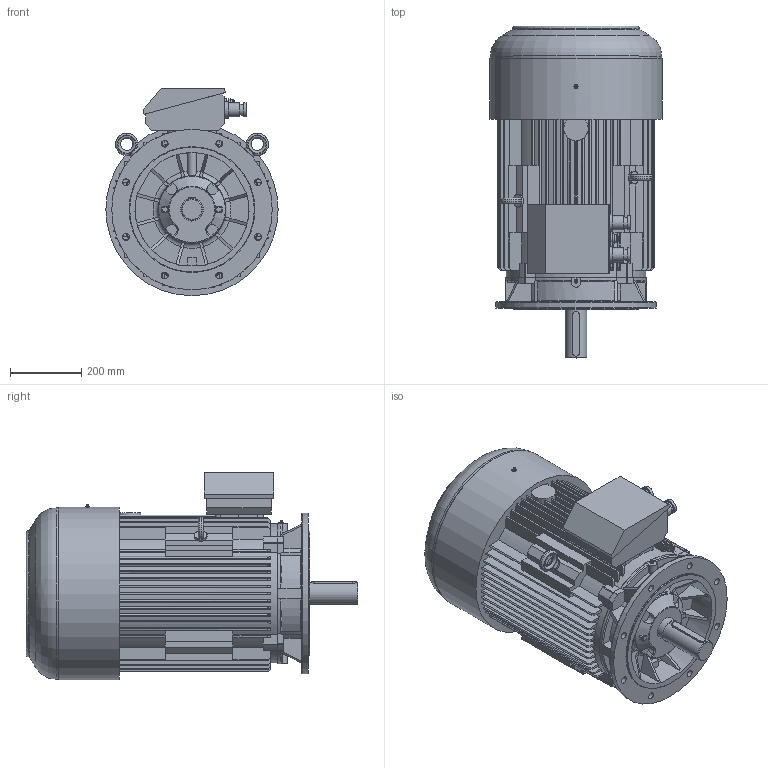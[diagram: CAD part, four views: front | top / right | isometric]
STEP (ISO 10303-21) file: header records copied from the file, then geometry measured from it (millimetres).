
FILE_DESCRIPTION( ( 'Unknown' ), '1' );
FILE_NAME( 'P:/3D_Bry³y silników skatalogowane/SIE/2SIE225/2SIE225_STEP/2SIEK 225_S_M4_6 silnik.stp', 'Unknown', ( 'Unknown' ), ( 'Unknown' ), 'XStep 1.0', 'Unknown', ' ' );
FILE_SCHEMA( ( 'CONFIG_CONTROL_DESIGN' ) );
Length unit declared in the file: millimetre
Products named in the file (1): 1
Bounding box: 483 x 930.5 x 581.55 mm (x, y, z)
Volume: 115862279.9 mm3; surface area: 3030157.6 mm2
Topology: 1 solids, 5 shells, 816 faces, 2237 edges, 1460 vertices
Faces by surface type: plane 531, cylinder 212, torus 50, cone 16, bspline 5, sphere 2
Full cylindrical faces by diameter (mm): 1.6 x2, 5 x4, 10 x3, 12.891 x1, 19 x8, 20 x1, 22.969 x1, 26.249 x1, 27 x1, 30 x4, 35 x4, 40 x4, 47 x2, 60 x1, 64.5 x1, 188 x1, 190 x1, 349.991 x1, 449.991 x1, 480 x1, 483 x1
Entity records: 28272 total; most frequent: CARTESIAN_POINT 7631, ORIENTED_EDGE 4294, DIRECTION 4264, EDGE_CURVE 2147, AXIS2_PLACEMENT_3D 1483, VERTEX_POINT 1445, LINE 1298, VECTOR 1298
